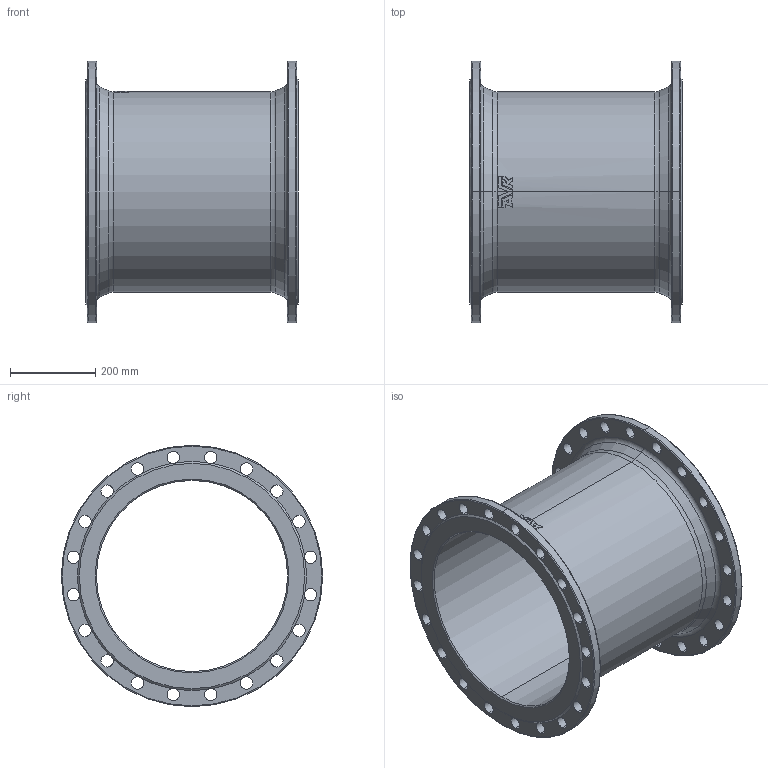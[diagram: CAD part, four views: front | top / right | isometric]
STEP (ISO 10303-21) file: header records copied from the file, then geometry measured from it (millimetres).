
FILE_DESCRIPTION (( 'STEP AP203' ), '1' );
FILE_NAME ('O_712_4810_DN450_0X_REV01.step', '2021-12-02T07:58:52', ( '' ), ( '' ), 'SwSTEP 2.0', 'SolidWorks 2019', '' );
FILE_SCHEMA (( 'CONFIG_CONTROL_DESIGN' ));
Length unit declared in the file: millimetre
Products named in the file (1): O_712_4810_DN450_0X_REV01
Bounding box: 500 x 615 x 615 mm (x, y, z)
Volume: 13506839.7 mm3; surface area: 1957035.8 mm2
Topology: 1 solids, 1 shells, 164 faces, 559 edges, 364 vertices
Faces by surface type: cylinder 93, plane 26, bspline 17, torus 16, cone 12
Entity records: 7682 total; most frequent: CARTESIAN_POINT 2519, ORIENTED_EDGE 1118, DIRECTION 1103, EDGE_CURVE 559, AXIS2_PLACEMENT_3D 478, VERTEX_POINT 364, CIRCLE 330, EDGE_LOOP 213
